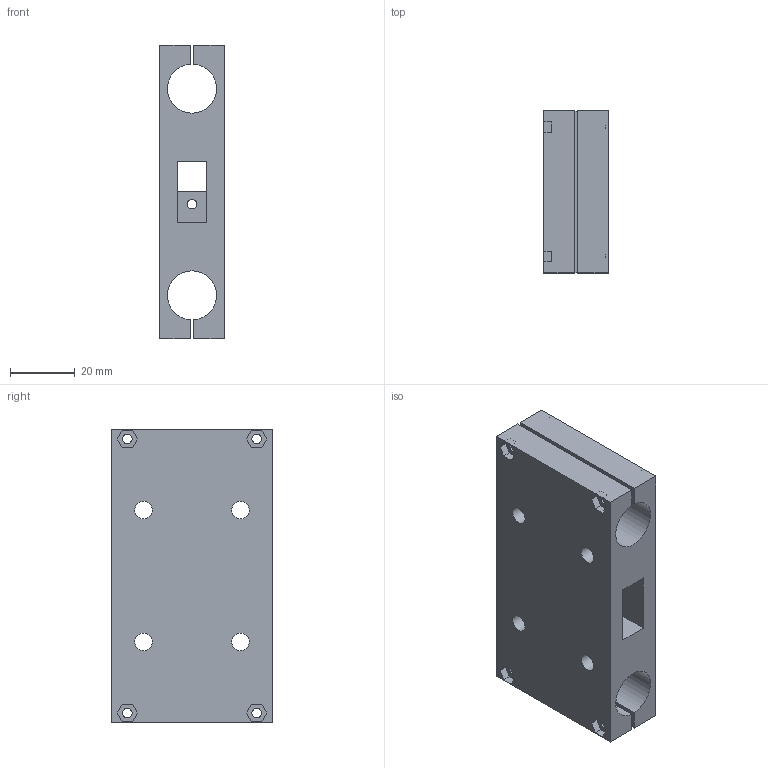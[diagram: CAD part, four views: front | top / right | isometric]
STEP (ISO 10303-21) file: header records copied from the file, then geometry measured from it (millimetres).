
FILE_DESCRIPTION(('FreeCAD Model'),'2;1');
FILE_NAME( '/home/ricardo/FreeCAD/myPrinter/FreeCAD/multiplatform_mount.step', '2015-01-03T07:04:57',('Author'),(''), 'Open CASCADE STEP processor 6.7','FreeCAD','Unknown');
FILE_SCHEMA(('AUTOMOTIVE_DESIGN_CC2 { 1 2 10303 214 -1 1 5 4 }'));
Length unit declared in the file: millimetre
Products named in the file (1): multiplatform_mount
Bounding box: 20 x 50 x 90.8 mm (x, y, z)
Volume: 63289.4 mm3; surface area: 23914.1 mm2
Topology: 1 solids, 1 shells, 71 faces, 183 edges, 122 vertices
Faces by surface type: plane 52, cylinder 19
Full cylindrical faces by diameter (mm): 2.92 x9, 5.4 x4, 5.55 x4
Entity records: 4668 total; most frequent: CARTESIAN_POINT 857, DIRECTION 712, LINE 473, VECTOR 473, ORIENTED_EDGE 366, PCURVE 366, DEFINITIONAL_REPRESENTATION 366, EDGE_CURVE 183
